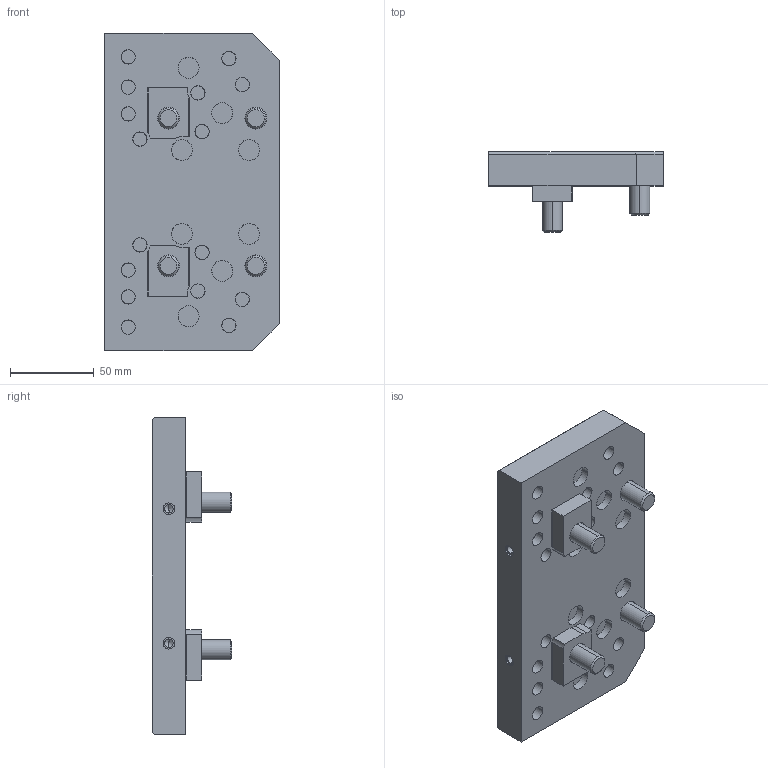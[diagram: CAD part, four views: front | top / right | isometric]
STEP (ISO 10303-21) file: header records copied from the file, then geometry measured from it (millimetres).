
FILE_DESCRIPTION (( 'STEP AP214' ), '1' );
FILE_NAME ('6921734005842.STEP', '2018-10-09T11:57:03', ( '' ), ( '' ), 'SwSTEP 2.0', 'SolidWorks 2016', '' );
FILE_SCHEMA (( 'AUTOMOTIVE_DESIGN' ));
Length unit declared in the file: millimetre
Products named in the file (6): 6921734005842; 8006101225050_<standard>; 6921885011000; 6933911010000; 8006101235000_DIN 912 M12 x 35 --- 35N; 6921734005800
Assembly tree (29 placements, depth 2):
  6921734005842
    6921734005800
    6933911010000  x16
    6921885011000  x8
    8006101225050_<standard>  x2
    8006101235000_DIN 912 M12 x 35 --- 35N  x2
Bounding box: 104 x 47.5 x 189 mm (x, y, z)
Volume: 371778.9 mm3; surface area: 97486.7 mm2
Topology: 29 solids, 29 shells, 1358 faces, 3175 edges, 1918 vertices
Faces by surface type: plane 591, cylinder 354, cone 296, bspline 101, torus 16
Entity records: 24663 total; most frequent: CARTESIAN_POINT 9314, ORIENTED_EDGE 3046, DIRECTION 2829, EDGE_CURVE 1523, AXIS2_PLACEMENT_3D 1025, VERTEX_POINT 980, LINE 779, VECTOR 779
